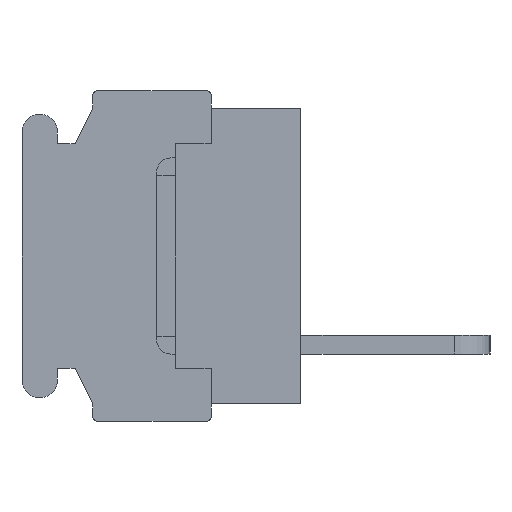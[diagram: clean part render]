
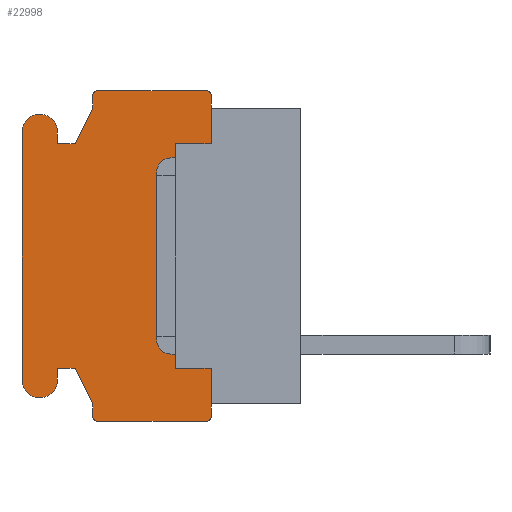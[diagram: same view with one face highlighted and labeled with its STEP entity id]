
A CAD part, left-side view. The second image highlights one B-rep face of the part: STEP entity #22998.
In plain terms, the highlighted planar face has unit normal (-1, 0, 0).
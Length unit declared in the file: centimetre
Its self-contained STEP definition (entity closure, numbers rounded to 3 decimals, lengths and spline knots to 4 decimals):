
#1341=PLANE('',#37784);
#2092=VECTOR('',#24374,1.);
#3489=VECTOR('',#27463,1.);
#3490=VECTOR('',#27464,1.);
#3491=VECTOR('',#27467,1.);
#3492=VECTOR('',#27470,1.);
#3493=VECTOR('',#27471,1.);
#3494=VECTOR('',#27472,1.);
#3495=VECTOR('',#27473,1.);
#3496=VECTOR('',#27476,1.);
#3497=VECTOR('',#27479,1.);
#3498=VECTOR('',#27480,1.);
#3499=VECTOR('',#27481,1.);
#3500=VECTOR('',#27482,1.);
#3501=VECTOR('',#27485,1.);
#3502=VECTOR('',#27488,1.);
#3503=VECTOR('',#27489,1.);
#3504=VECTOR('',#27490,1.);
#3505=VECTOR('',#27491,1.);
#4536=LINE('',#30274,#2092);
#5933=LINE('',#34768,#3489);
#5934=LINE('',#34770,#3490);
#5935=LINE('',#34774,#3491);
#5936=LINE('',#34778,#3492);
#5937=LINE('',#34780,#3493);
#5938=LINE('',#34782,#3494);
#5939=LINE('',#34784,#3495);
#5940=LINE('',#34788,#3496);
#5941=LINE('',#34792,#3497);
#5942=LINE('',#34794,#3498);
#5943=LINE('',#34796,#3499);
#5944=LINE('',#34798,#3500);
#5945=LINE('',#34802,#3501);
#5946=LINE('',#34806,#3502);
#5947=LINE('',#34807,#3503);
#5948=LINE('',#34809,#3504);
#5949=LINE('',#34810,#3505);
#6921=VERTEX_POINT('',#30275);
#6922=VERTEX_POINT('',#30276);
#7020=VERTEX_POINT('',#30549);
#7061=VERTEX_POINT('',#30636);
#8240=VERTEX_POINT('',#34769);
#8241=VERTEX_POINT('',#34771);
#8242=VERTEX_POINT('',#34773);
#8243=VERTEX_POINT('',#34775);
#8244=VERTEX_POINT('',#34777);
#8245=VERTEX_POINT('',#34779);
#8246=VERTEX_POINT('',#34781);
#8247=VERTEX_POINT('',#34783);
#8248=VERTEX_POINT('',#34785);
#8249=VERTEX_POINT('',#34787);
#8250=VERTEX_POINT('',#34789);
#8251=VERTEX_POINT('',#34791);
#8252=VERTEX_POINT('',#34793);
#8253=VERTEX_POINT('',#34795);
#8254=VERTEX_POINT('',#34797);
#8255=VERTEX_POINT('',#34799);
#8256=VERTEX_POINT('',#34801);
#8257=VERTEX_POINT('',#34803);
#8258=VERTEX_POINT('',#34805);
#8259=VERTEX_POINT('',#34808);
#9062=CIRCLE('',#37785,0.02);
#9063=CIRCLE('',#37786,0.02);
#9064=CIRCLE('',#37787,0.075);
#9065=CIRCLE('',#37788,0.075);
#9066=CIRCLE('',#37789,0.02);
#9067=CIRCLE('',#37790,0.02);
#9876=EDGE_CURVE('',#6921,#6922,#4536,.T.);
#11872=EDGE_CURVE('',#8240,#7020,#5933,.T.);
#11873=EDGE_CURVE('',#8241,#7020,#5934,.T.);
#11874=EDGE_CURVE('',#8242,#8241,#9062,.T.);
#11875=EDGE_CURVE('',#8243,#8242,#5935,.T.);
#11876=EDGE_CURVE('',#8244,#8243,#9063,.T.);
#11877=EDGE_CURVE('',#8245,#8244,#5936,.T.);
#11878=EDGE_CURVE('',#8246,#8245,#5937,.T.);
#11879=EDGE_CURVE('',#8247,#8246,#5938,.T.);
#11880=EDGE_CURVE('',#8248,#8247,#5939,.T.);
#11881=EDGE_CURVE('',#8249,#8248,#9064,.T.);
#11882=EDGE_CURVE('',#8250,#8249,#5940,.T.);
#11883=EDGE_CURVE('',#8251,#8250,#9065,.T.);
#11884=EDGE_CURVE('',#8252,#8251,#5941,.T.);
#11885=EDGE_CURVE('',#8253,#8252,#5942,.T.);
#11886=EDGE_CURVE('',#8254,#8253,#5943,.T.);
#11887=EDGE_CURVE('',#8255,#8254,#5944,.T.);
#11888=EDGE_CURVE('',#8256,#8255,#9066,.T.);
#11889=EDGE_CURVE('',#8257,#8256,#5945,.T.);
#11890=EDGE_CURVE('',#8258,#8257,#9067,.T.);
#11891=EDGE_CURVE('',#7061,#8258,#5946,.T.);
#11892=EDGE_CURVE('',#7061,#8259,#5947,.T.);
#11893=EDGE_CURVE('',#8259,#6921,#5948,.T.);
#11894=EDGE_CURVE('',#6922,#8240,#5949,.T.);
#17998=ORIENTED_EDGE('',*,*,#11872,.T.);
#17999=ORIENTED_EDGE('',*,*,#11873,.F.);
#18000=ORIENTED_EDGE('',*,*,#11874,.F.);
#18001=ORIENTED_EDGE('',*,*,#11875,.F.);
#18002=ORIENTED_EDGE('',*,*,#11876,.F.);
#18003=ORIENTED_EDGE('',*,*,#11877,.F.);
#18004=ORIENTED_EDGE('',*,*,#11878,.F.);
#18005=ORIENTED_EDGE('',*,*,#11879,.F.);
#18006=ORIENTED_EDGE('',*,*,#11880,.F.);
#18007=ORIENTED_EDGE('',*,*,#11881,.F.);
#18008=ORIENTED_EDGE('',*,*,#11882,.F.);
#18009=ORIENTED_EDGE('',*,*,#11883,.F.);
#18010=ORIENTED_EDGE('',*,*,#11884,.F.);
#18011=ORIENTED_EDGE('',*,*,#11885,.F.);
#18012=ORIENTED_EDGE('',*,*,#11886,.F.);
#18013=ORIENTED_EDGE('',*,*,#11887,.F.);
#18014=ORIENTED_EDGE('',*,*,#11888,.F.);
#18015=ORIENTED_EDGE('',*,*,#11889,.F.);
#18016=ORIENTED_EDGE('',*,*,#11890,.F.);
#18017=ORIENTED_EDGE('',*,*,#11891,.F.);
#18018=ORIENTED_EDGE('',*,*,#11892,.T.);
#18019=ORIENTED_EDGE('',*,*,#11893,.T.);
#18020=ORIENTED_EDGE('',*,*,#9876,.T.);
#18021=ORIENTED_EDGE('',*,*,#11894,.T.);
#20324=EDGE_LOOP('',(#17998,#17999,#18000,#18001,#18002,#18003,#18004,#18005,
#18006,#18007,#18008,#18009,#18010,#18011,#18012,#18013,#18014,#18015,#18016,
#18017,#18018,#18019,#18020,#18021));
#21724=FACE_BOUND('',#20324,.T.);
#22998=ADVANCED_FACE('',(#21724),#1341,.F.);
#24374=DIRECTION('',(0.,0.,1.));
#27462=DIRECTION('',(1.,0.,0.));
#27463=DIRECTION('',(0.,0.,1.));
#27464=DIRECTION('',(0.,0.,-1.));
#27465=DIRECTION('',(1.,0.,0.));
#27466=DIRECTION('',(0.,0.,-0.02));
#27467=DIRECTION('',(0.,-1.,0.));
#27468=DIRECTION('',(1.,0.,0.));
#27469=DIRECTION('',(0.,0.,-0.02));
#27470=DIRECTION('',(0.,0.,1.));
#27471=DIRECTION('',(0.,-0.447,0.894));
#27472=DIRECTION('',(0.,-1.,0.));
#27473=DIRECTION('',(0.,0.,-1.));
#27474=DIRECTION('',(1.,0.,0.));
#27475=DIRECTION('',(0.,0.,-0.075));
#27476=DIRECTION('',(0.,0.,1.));
#27477=DIRECTION('',(1.,0.,0.));
#27478=DIRECTION('',(0.,0.,-0.075));
#27479=DIRECTION('',(0.,0.,-1.));
#27480=DIRECTION('',(0.,1.,0.));
#27481=DIRECTION('',(0.,0.447,0.894));
#27482=DIRECTION('',(0.,0.,1.));
#27483=DIRECTION('',(1.,0.,0.));
#27484=DIRECTION('',(0.,0.,-0.02));
#27485=DIRECTION('',(0.,1.,0.));
#27486=DIRECTION('',(1.,0.,0.));
#27487=DIRECTION('',(0.,0.,-0.02));
#27488=DIRECTION('',(0.,0.,-1.));
#27489=DIRECTION('',(0.,0.,1.));
#27490=DIRECTION('',(0.,1.,0.));
#27491=DIRECTION('',(0.,-1.,0.));
#30274=CARTESIAN_POINT('',(-0.762,0.53,0.));
#30275=CARTESIAN_POINT('',(-0.762,0.53,-0.475));
#30276=CARTESIAN_POINT('',(-0.762,0.53,0.475));
#30549=CARTESIAN_POINT('',(-0.762,0.38,0.625));
#30636=CARTESIAN_POINT('',(-0.762,0.38,-0.625));
#34767=CARTESIAN_POINT('',(-0.762,0.6059,0.));
#34768=CARTESIAN_POINT('',(-0.762,0.38,0.275));
#34769=CARTESIAN_POINT('',(-0.762,0.38,0.475));
#34770=CARTESIAN_POINT('',(-0.762,0.38,0.68));
#34771=CARTESIAN_POINT('',(-0.762,0.38,0.68));
#34772=CARTESIAN_POINT('',(-0.762,0.4,0.68));
#34773=CARTESIAN_POINT('',(-0.762,0.4,0.7));
#34774=CARTESIAN_POINT('',(-0.762,0.86,0.7));
#34775=CARTESIAN_POINT('',(-0.762,0.86,0.7));
#34776=CARTESIAN_POINT('',(-0.762,0.86,0.68));
#34777=CARTESIAN_POINT('',(-0.762,0.88,0.68));
#34778=CARTESIAN_POINT('',(-0.762,0.88,0.625));
#34779=CARTESIAN_POINT('',(-0.762,0.88,0.625));
#34780=CARTESIAN_POINT('',(-0.762,0.955,0.475));
#34781=CARTESIAN_POINT('',(-0.762,0.955,0.475));
#34782=CARTESIAN_POINT('',(-0.762,1.03,0.475));
#34783=CARTESIAN_POINT('',(-0.762,1.03,0.475));
#34784=CARTESIAN_POINT('',(-0.762,1.03,0.525));
#34785=CARTESIAN_POINT('',(-0.762,1.03,0.525));
#34786=CARTESIAN_POINT('',(-0.762,1.105,0.525));
#34787=CARTESIAN_POINT('',(-0.762,1.18,0.525));
#34788=CARTESIAN_POINT('',(-0.762,1.18,-0.525));
#34789=CARTESIAN_POINT('',(-0.762,1.18,-0.525));
#34790=CARTESIAN_POINT('',(-0.762,1.105,-0.525));
#34791=CARTESIAN_POINT('',(-0.762,1.03,-0.525));
#34792=CARTESIAN_POINT('',(-0.762,1.03,-0.475));
#34793=CARTESIAN_POINT('',(-0.762,1.03,-0.475));
#34794=CARTESIAN_POINT('',(-0.762,0.955,-0.475));
#34795=CARTESIAN_POINT('',(-0.762,0.955,-0.475));
#34796=CARTESIAN_POINT('',(-0.762,0.88,-0.625));
#34797=CARTESIAN_POINT('',(-0.762,0.88,-0.625));
#34798=CARTESIAN_POINT('',(-0.762,0.88,-0.68));
#34799=CARTESIAN_POINT('',(-0.762,0.88,-0.68));
#34800=CARTESIAN_POINT('',(-0.762,0.86,-0.68));
#34801=CARTESIAN_POINT('',(-0.762,0.86,-0.7));
#34802=CARTESIAN_POINT('',(-0.762,0.4,-0.7));
#34803=CARTESIAN_POINT('',(-0.762,0.4,-0.7));
#34804=CARTESIAN_POINT('',(-0.762,0.4,-0.68));
#34805=CARTESIAN_POINT('',(-0.762,0.38,-0.68));
#34806=CARTESIAN_POINT('',(-0.762,0.38,-0.625));
#34807=CARTESIAN_POINT('',(-0.762,0.38,-0.275));
#34808=CARTESIAN_POINT('',(-0.762,0.38,-0.475));
#34809=CARTESIAN_POINT('',(-0.762,0.5304,-0.475));
#34810=CARTESIAN_POINT('',(-0.762,0.5304,0.475));
#37784=AXIS2_PLACEMENT_3D('',#34767,#27462,$);
#37785=AXIS2_PLACEMENT_3D('',#34772,#27465,#27466);
#37786=AXIS2_PLACEMENT_3D('',#34776,#27468,#27469);
#37787=AXIS2_PLACEMENT_3D('',#34786,#27474,#27475);
#37788=AXIS2_PLACEMENT_3D('',#34790,#27477,#27478);
#37789=AXIS2_PLACEMENT_3D('',#34800,#27483,#27484);
#37790=AXIS2_PLACEMENT_3D('',#34804,#27486,#27487);
